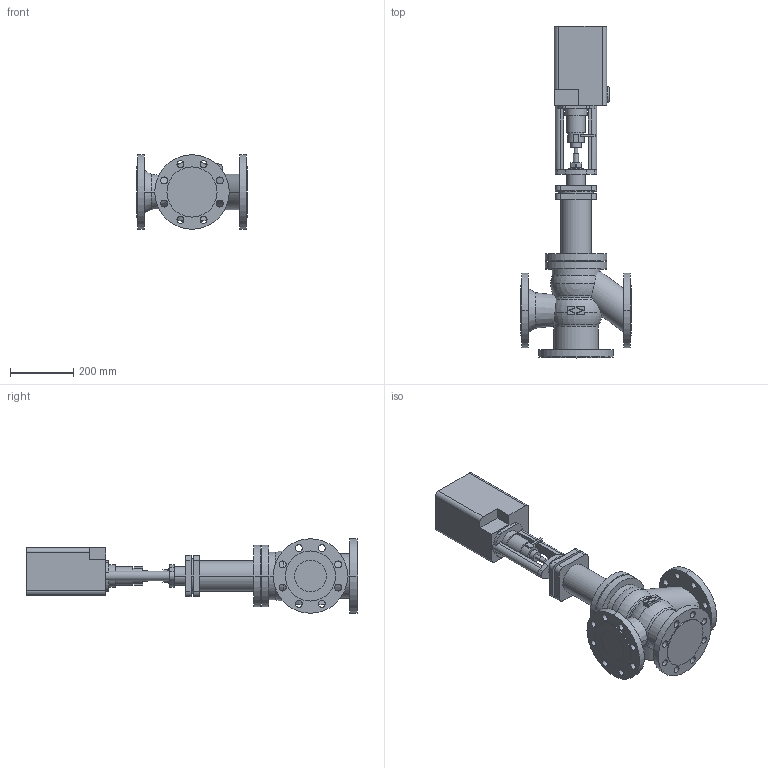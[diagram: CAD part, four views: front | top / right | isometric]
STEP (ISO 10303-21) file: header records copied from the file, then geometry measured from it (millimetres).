
FILE_DESCRIPTION(('OneSpaceDesigner STEP Export'),'2;1');
FILE_NAME('c000002440.stp','2006-09-21T11:44:05',(''),(''),'OneSpace Designer STEP processor for AP214 (Solid Model)','OneSpace Designer 13.20A 18-Aug-2005 (C) CoCreate Software GmbH','');
FILE_SCHEMA(('AUTOMOTIVE_DESIGN { 1 0 10303 214 1 1 1 1 }'));
Length unit declared in the file: millimetre
Products named in the file (2): 1; 2
Bounding box: 350 x 1047.7 x 235 mm (x, y, z)
Volume: 19765413.1 mm3; surface area: 973014.5 mm2
Topology: 2 solids, 2 shells, 258 faces, 668 edges, 440 vertices
Faces by surface type: cylinder 134, plane 102, torus 14, sphere 4, cone 4
Entity records: 7490 total; most frequent: CARTESIAN_POINT 1560, ORIENTED_EDGE 1328, DIRECTION 1091, EDGE_CURVE 664, VERTEX_POINT 440, AXIS2_PLACEMENT_3D 389, EDGE_LOOP 336, VECTOR 313
